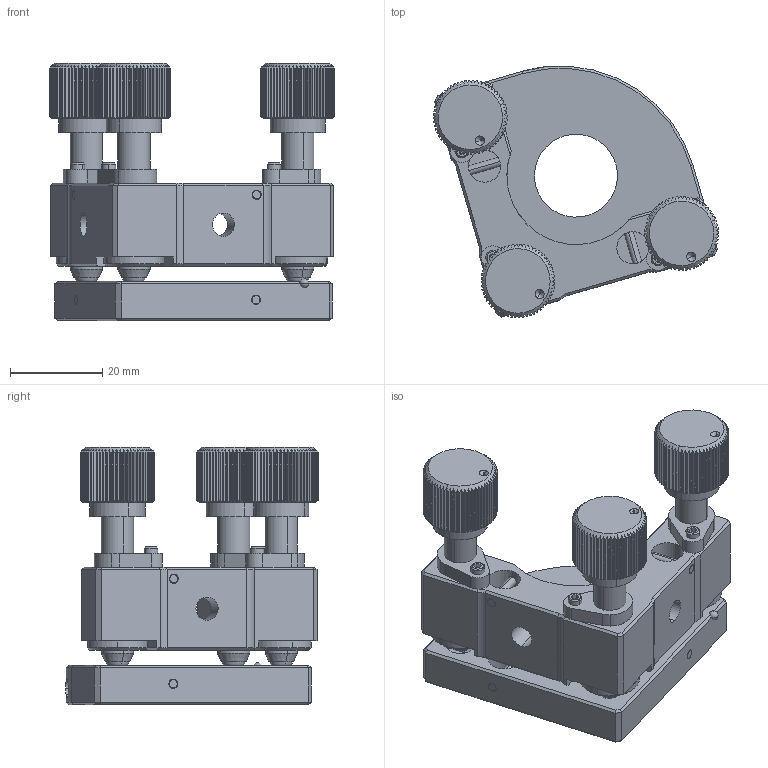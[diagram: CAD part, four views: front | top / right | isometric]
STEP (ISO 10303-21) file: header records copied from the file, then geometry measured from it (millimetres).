
FILE_DESCRIPTION (( 'STEP AP203' ), '1' );
FILE_NAME ('OMHS20-S.step', '2019-05-09T09:02:17', ( '' ), ( '' ), 'SwSTEP 2.0', 'SolidWorks 2016', '' );
FILE_SCHEMA (( 'CONFIG_CONTROL_DESIGN' ));
Length unit declared in the file: millimetre
Products named in the file (1): OMHS20-S
Bounding box: 61.85 x 54.71 x 55.8 mm (x, y, z)
Surface area: 21133.4 mm2 (no closed solid volume)
Topology: 0 solids, 32 shells, 1043 faces, 2895 edges, 1875 vertices
Faces by surface type: plane 514, cylinder 287, cone 234, torus 6, sphere 2
Entity records: 34183 total; most frequent: CARTESIAN_POINT 8614, ORIENTED_EDGE 5330, DIRECTION 5055, EDGE_CURVE 2876, AXIS2_PLACEMENT_3D 1905, VERTEX_POINT 1868, LINE 1245, VECTOR 1245
